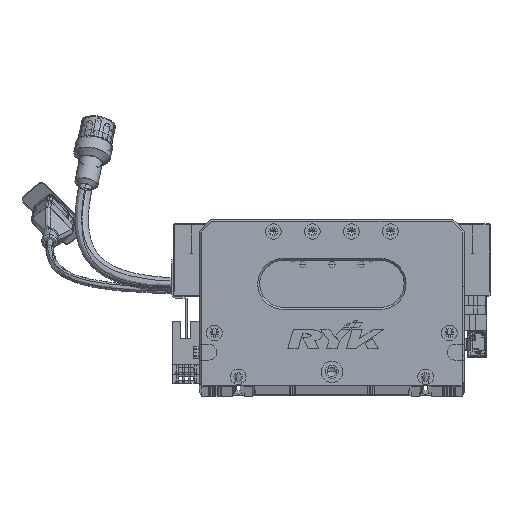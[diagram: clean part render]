
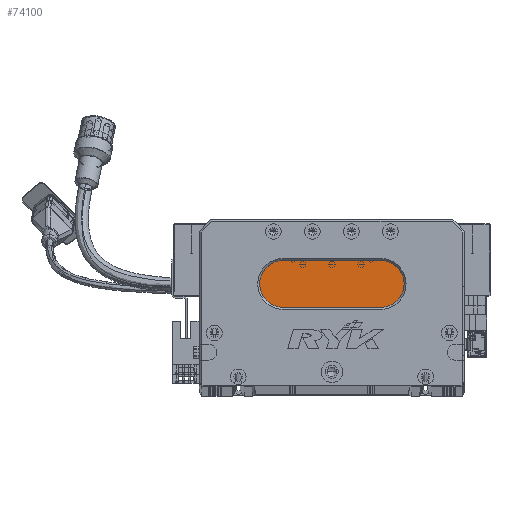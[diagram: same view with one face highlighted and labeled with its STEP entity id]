
A CAD part, top view. The second image highlights one B-rep face of the part: STEP entity #74100.
In plain terms, the highlighted planar face has unit normal (0, 0, 1) as drawn and (0, 0, -1) by its records, which use the part's own axes.
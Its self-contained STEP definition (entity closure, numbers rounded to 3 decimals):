
#2436 = CARTESIAN_POINT ( 'NONE',  ( 43., 40., 13. ) ) ;
#9990 = CARTESIAN_POINT ( 'NONE',  ( 93., 52., 13. ) ) ;
#14394 = FACE_OUTER_BOUND ( 'NONE', #99488, .T. ) ;
#17551 = ORIENTED_EDGE ( 'NONE', *, *, #127006, .T. ) ;
#22468 = ORIENTED_EDGE ( 'NONE', *, *, #112328, .T. ) ;
#23549 = CARTESIAN_POINT ( 'NONE',  ( 93., 64., 13. ) ) ;
#31354 = AXIS2_PLACEMENT_3D ( 'NONE', #9990, #54447, #97513 ) ;
#34319 = EDGE_CURVE ( 'NONE', #125588, #127813, #41256, .T. ) ;
#35129 = CIRCLE ( 'NONE', #86296, 12. ) ;
#36924 = CARTESIAN_POINT ( 'NONE',  ( 43., 52., 13. ) ) ;
#37975 = ORIENTED_EDGE ( 'NONE', *, *, #57684, .T. ) ;
#41256 = LINE ( 'NONE', #41997, #108307 ) ;
#41997 = CARTESIAN_POINT ( 'NONE',  ( 93., 64., 13. ) ) ;
#42154 = CARTESIAN_POINT ( 'NONE',  ( 93., 52., 13. ) ) ;
#46865 = CIRCLE ( 'NONE', #58012, 12. ) ;
#48963 = AXIS2_PLACEMENT_3D ( 'NONE', #42154, #50996, #73032 ) ;
#50996 = DIRECTION ( 'NONE',  ( 0., 0., -1. ) ) ;
#53663 = EDGE_CURVE ( 'NONE', #117318, #137352, #112282, .T. ) ;
#54447 = DIRECTION ( 'NONE',  ( 0., 0., -1. ) ) ;
#57684 = EDGE_CURVE ( 'NONE', #127813, #117318, #61586, .T. ) ;
#58012 = AXIS2_PLACEMENT_3D ( 'NONE', #122224, #91789, #112865 ) ;
#61586 = CIRCLE ( 'NONE', #31354, 12. ) ;
#62119 = DIRECTION ( 'NONE',  ( 1., 0., 0. ) ) ;
#65341 = VECTOR ( 'NONE', #82112, 1000. ) ;
#67760 = CARTESIAN_POINT ( 'NONE',  ( 31., 52., 13. ) ) ;
#73032 = DIRECTION ( 'NONE',  ( -1., 0., 0. ) ) ;
#74100 = ADVANCED_FACE ( 'NONE', ( #14394 ), #127349, .T. ) ;
#77047 = VERTEX_POINT ( 'NONE', #67760 ) ;
#82112 = DIRECTION ( 'NONE',  ( -1., 0., 0. ) ) ;
#86296 = AXIS2_PLACEMENT_3D ( 'NONE', #36924, #104318, #119233 ) ;
#91789 = DIRECTION ( 'NONE',  ( 0., 0., -1. ) ) ;
#95868 = ORIENTED_EDGE ( 'NONE', *, *, #34319, .T. ) ;
#97513 = DIRECTION ( 'NONE',  ( -1., 0., 0. ) ) ;
#99488 = EDGE_LOOP ( 'NONE', ( #37975, #130530, #22468, #17551, #95868 ) ) ;
#104318 = DIRECTION ( 'NONE',  ( 0., 0., -1. ) ) ;
#108307 = VECTOR ( 'NONE', #62119, 1000. ) ;
#112282 = LINE ( 'NONE', #135426, #65341 ) ;
#112328 = EDGE_CURVE ( 'NONE', #137352, #77047, #35129, .T. ) ;
#112865 = DIRECTION ( 'NONE',  ( -1., 0., 0. ) ) ;
#116797 = CARTESIAN_POINT ( 'NONE',  ( 93., 40., 13. ) ) ;
#117068 = CARTESIAN_POINT ( 'NONE',  ( 43., 64., 13. ) ) ;
#117318 = VERTEX_POINT ( 'NONE', #116797 ) ;
#119233 = DIRECTION ( 'NONE',  ( -1., 0., 0. ) ) ;
#122224 = CARTESIAN_POINT ( 'NONE',  ( 43., 52., 13. ) ) ;
#125588 = VERTEX_POINT ( 'NONE', #117068 ) ;
#127006 = EDGE_CURVE ( 'NONE', #77047, #125588, #46865, .T. ) ;
#127349 = PLANE ( 'NONE',  #48963 ) ;
#127813 = VERTEX_POINT ( 'NONE', #23549 ) ;
#130530 = ORIENTED_EDGE ( 'NONE', *, *, #53663, .T. ) ;
#135426 = CARTESIAN_POINT ( 'NONE',  ( 93., 40., 13. ) ) ;
#137352 = VERTEX_POINT ( 'NONE', #2436 ) ;
